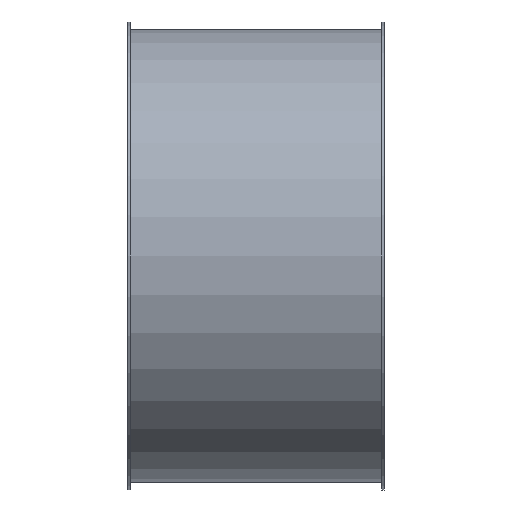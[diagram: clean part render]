
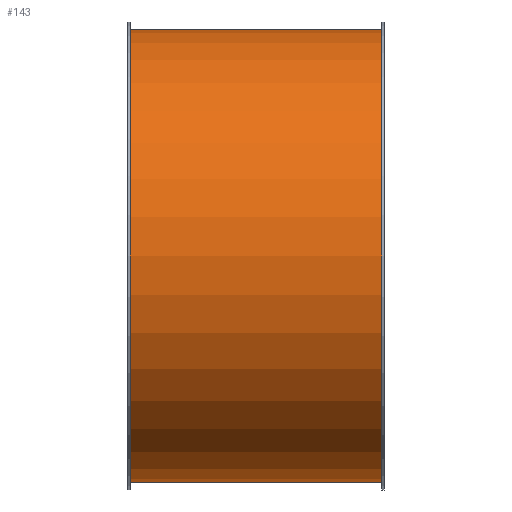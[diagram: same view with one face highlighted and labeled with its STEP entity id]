
A CAD part, front view. The second image highlights one B-rep face of the part: STEP entity #143.
In plain terms, the highlighted cylindrical face has radius 176.5 mm (diameter 353 mm), a full revolution.
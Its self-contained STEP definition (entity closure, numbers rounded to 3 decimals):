
#112=CARTESIAN_POINT('',(166.119,2.817,0.0));
#113=VERTEX_POINT('',#112);
#114=CARTESIAN_POINT('',(166.119,179.317,0.0));
#115=DIRECTION('',(-1.0,0.0,0.0));
#116=DIRECTION('',(0.0,-1.0,0.0));
#117=AXIS2_PLACEMENT_3D('',#114,#115,#116);
#118=CIRCLE('',#117,176.5);
#119=EDGE_CURVE('',#113,#113,#118,.T.);
#124=CARTESIAN_POINT('',(68.119,179.317,0.0));
#125=DIRECTION('',(-1.0,0.,0.0));
#126=DIRECTION('',(0.0,-1.0,0.0));
#127=AXIS2_PLACEMENT_3D('',#124,#125,#126);
#128=CYLINDRICAL_SURFACE('',#127,176.5);
#129=CARTESIAN_POINT('',(-29.881,2.817,0.0));
#130=VERTEX_POINT('',#129);
#131=CARTESIAN_POINT('',(-29.881,179.317,0.0));
#132=DIRECTION('',(-1.0,0.0,0.0));
#133=DIRECTION('',(0.0,-1.0,0.0));
#134=AXIS2_PLACEMENT_3D('',#131,#132,#133);
#135=CIRCLE('',#134,176.5);
#136=EDGE_CURVE('',#130,#130,#135,.T.);
#137=ORIENTED_EDGE('',*,*,#136,.F.);
#138=EDGE_LOOP('',(#137));
#139=FACE_OUTER_BOUND('',#138,.T.);
#140=ORIENTED_EDGE('',*,*,#119,.T.);
#141=EDGE_LOOP('',(#140));
#142=FACE_BOUND('',#141,.T.);
#143=ADVANCED_FACE('',(#139,#142),#128,.T.);
